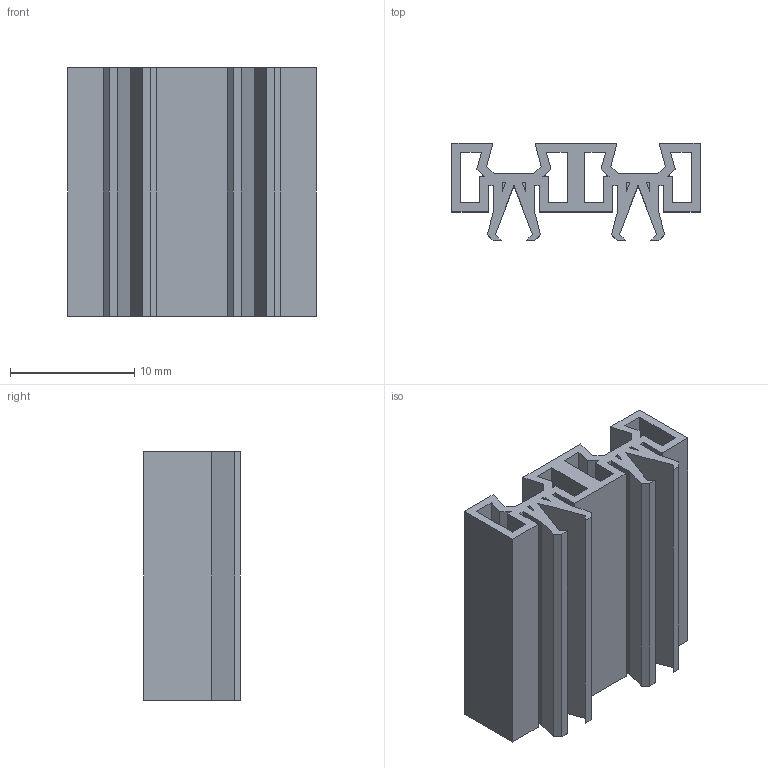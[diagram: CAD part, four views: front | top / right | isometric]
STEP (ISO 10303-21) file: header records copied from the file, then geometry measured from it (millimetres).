
FILE_DESCRIPTION(/* description */ (''),/* implementation_level */ '2;1');
FILE_NAME(/* name */ 'C:/Users/priba/Downloads/Brick2x2x0.55.step',/* time_stamp */ '2020-06-14T08:41:52+02:00',/* author */ (''),/* organization */ (''),/* preprocessor_version */ 'ST-DEVELOPER v18.1',/* originating_system */ 'Autodesk Translation Framework v9.3.0.1241',/* authorisation */ '');
FILE_SCHEMA (('AUTOMOTIVE_DESIGN { 1 0 10303 214 3 1 1 }'));
Length unit declared in the file: millimetre
Products named in the file (1): Brick2x2x0.55
Bounding box: 20 x 7.81 x 20 mm (x, y, z)
Volume: 1303.1 mm3; surface area: 3330.3 mm2
Topology: 1 solids, 1 shells, 98 faces, 276 edges, 184 vertices
Faces by surface type: plane 98
Entity records: 3138 total; most frequent: CARTESIAN_POINT 559, ORIENTED_EDGE 552, DIRECTION 474, LINE 276, VECTOR 276, EDGE_CURVE 276, VERTEX_POINT 184, EDGE_LOOP 110
